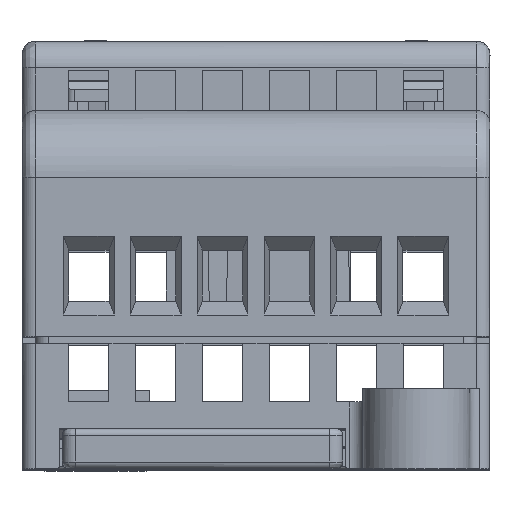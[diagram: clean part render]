
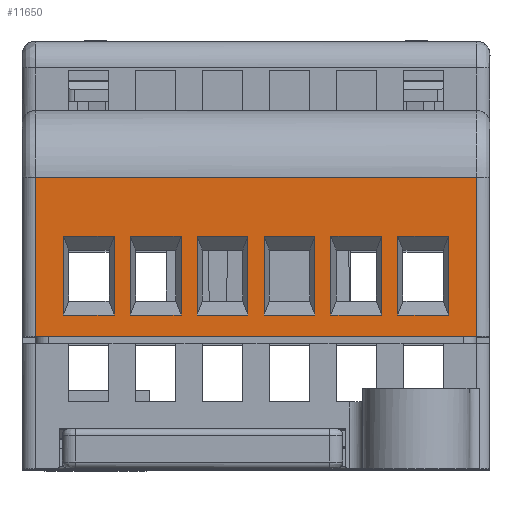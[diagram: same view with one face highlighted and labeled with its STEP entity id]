
A CAD part, top view. The second image highlights one B-rep face of the part: STEP entity #11650.
In plain terms, the highlighted planar face has unit normal (0, 0, 1).
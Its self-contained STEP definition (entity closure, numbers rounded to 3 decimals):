
#11650=ADVANCED_FACE('',(#12820,#12129,#12130,#12131,#12132,#12133,#12134),
#38972,.T.);
#12129=FACE_BOUND('',#13947,.T.);
#12130=FACE_BOUND('',#13948,.T.);
#12131=FACE_BOUND('',#13949,.T.);
#12132=FACE_BOUND('',#13950,.T.);
#12133=FACE_BOUND('',#13951,.T.);
#12134=FACE_BOUND('',#13952,.T.);
#12820=FACE_OUTER_BOUND('',#13946,.T.);
#13946=EDGE_LOOP('',(#18120,#18121,#18122,#18123));
#13947=EDGE_LOOP('',(#18124,#18125,#18126,#18127));
#13948=EDGE_LOOP('',(#18128,#18129,#18130,#18131));
#13949=EDGE_LOOP('',(#18132,#18133,#18134,#18135));
#13950=EDGE_LOOP('',(#18136,#18137,#18138,#18139));
#13951=EDGE_LOOP('',(#18140,#18141,#18142,#18143));
#13952=EDGE_LOOP('',(#18144,#18145,#18146,#18147));
#18120=ORIENTED_EDGE('',*,*,#24145,.T.);
#18121=ORIENTED_EDGE('',*,*,#24148,.T.);
#18122=ORIENTED_EDGE('',*,*,#24147,.T.);
#18123=ORIENTED_EDGE('',*,*,#24146,.T.);
#18124=ORIENTED_EDGE('',*,*,#24152,.T.);
#18125=ORIENTED_EDGE('',*,*,#24151,.T.);
#18126=ORIENTED_EDGE('',*,*,#24150,.T.);
#18127=ORIENTED_EDGE('',*,*,#24149,.T.);
#18128=ORIENTED_EDGE('',*,*,#24156,.T.);
#18129=ORIENTED_EDGE('',*,*,#24155,.T.);
#18130=ORIENTED_EDGE('',*,*,#24154,.T.);
#18131=ORIENTED_EDGE('',*,*,#24153,.T.);
#18132=ORIENTED_EDGE('',*,*,#24160,.T.);
#18133=ORIENTED_EDGE('',*,*,#24159,.T.);
#18134=ORIENTED_EDGE('',*,*,#24158,.T.);
#18135=ORIENTED_EDGE('',*,*,#24157,.T.);
#18136=ORIENTED_EDGE('',*,*,#24164,.T.);
#18137=ORIENTED_EDGE('',*,*,#24163,.T.);
#18138=ORIENTED_EDGE('',*,*,#24162,.T.);
#18139=ORIENTED_EDGE('',*,*,#24161,.T.);
#18140=ORIENTED_EDGE('',*,*,#24168,.T.);
#18141=ORIENTED_EDGE('',*,*,#24167,.T.);
#18142=ORIENTED_EDGE('',*,*,#24166,.T.);
#18143=ORIENTED_EDGE('',*,*,#24165,.T.);
#18144=ORIENTED_EDGE('',*,*,#24172,.T.);
#18145=ORIENTED_EDGE('',*,*,#24171,.T.);
#18146=ORIENTED_EDGE('',*,*,#24170,.T.);
#18147=ORIENTED_EDGE('',*,*,#24169,.T.);
#24145=EDGE_CURVE('',#36195,#36196,#30593,.T.);
#24146=EDGE_CURVE('',#36197,#36195,#30594,.T.);
#24147=EDGE_CURVE('',#36198,#36197,#30595,.T.);
#24148=EDGE_CURVE('',#36196,#36198,#30596,.T.);
#24149=EDGE_CURVE('',#36199,#36200,#30597,.T.);
#24150=EDGE_CURVE('',#36201,#36199,#30598,.T.);
#24151=EDGE_CURVE('',#36202,#36201,#30599,.T.);
#24152=EDGE_CURVE('',#36200,#36202,#30600,.T.);
#24153=EDGE_CURVE('',#36203,#36204,#30601,.T.);
#24154=EDGE_CURVE('',#36205,#36203,#30602,.T.);
#24155=EDGE_CURVE('',#36206,#36205,#30603,.T.);
#24156=EDGE_CURVE('',#36204,#36206,#30604,.T.);
#24157=EDGE_CURVE('',#36207,#36208,#30605,.T.);
#24158=EDGE_CURVE('',#36209,#36207,#30606,.T.);
#24159=EDGE_CURVE('',#36210,#36209,#30607,.T.);
#24160=EDGE_CURVE('',#36208,#36210,#30608,.T.);
#24161=EDGE_CURVE('',#36211,#36212,#30609,.T.);
#24162=EDGE_CURVE('',#36213,#36211,#30610,.T.);
#24163=EDGE_CURVE('',#36214,#36213,#30611,.T.);
#24164=EDGE_CURVE('',#36212,#36214,#30612,.T.);
#24165=EDGE_CURVE('',#36215,#36216,#30613,.T.);
#24166=EDGE_CURVE('',#36217,#36215,#30614,.T.);
#24167=EDGE_CURVE('',#36218,#36217,#30615,.T.);
#24168=EDGE_CURVE('',#36216,#36218,#30616,.T.);
#24169=EDGE_CURVE('',#36219,#36220,#30617,.T.);
#24170=EDGE_CURVE('',#36221,#36219,#30618,.T.);
#24171=EDGE_CURVE('',#36222,#36221,#30619,.T.);
#24172=EDGE_CURVE('',#36220,#36222,#30620,.T.);
#30593=B_SPLINE_CURVE_WITH_KNOTS('',1,(#56403,#56404),.UNSPECIFIED.,.F.,
 .F.,(2,2),(-11.9,0.),.UNSPECIFIED.);
#30594=B_SPLINE_CURVE_WITH_KNOTS('',1,(#56405,#56406),.UNSPECIFIED.,.F.,
 .F.,(2,2),(-33.,0.),.UNSPECIFIED.);
#30595=B_SPLINE_CURVE_WITH_KNOTS('',1,(#56407,#56408),.UNSPECIFIED.,.F.,
 .F.,(2,2),(-11.9,0.),.UNSPECIFIED.);
#30596=B_SPLINE_CURVE_WITH_KNOTS('',1,(#56409,#56410),.UNSPECIFIED.,.F.,
 .F.,(2,2),(-33.,0.),.UNSPECIFIED.);
#30597=B_SPLINE_CURVE_WITH_KNOTS('',1,(#56411,#56412),.UNSPECIFIED.,.F.,
 .F.,(2,2),(-5.9,0.),.UNSPECIFIED.);
#30598=B_SPLINE_CURVE_WITH_KNOTS('',1,(#56413,#56414),.UNSPECIFIED.,.F.,
 .F.,(2,2),(-3.8,0.),.UNSPECIFIED.);
#30599=B_SPLINE_CURVE_WITH_KNOTS('',1,(#56415,#56416),.UNSPECIFIED.,.F.,
 .F.,(2,2),(-5.9,0.),.UNSPECIFIED.);
#30600=B_SPLINE_CURVE_WITH_KNOTS('',1,(#56417,#56418),.UNSPECIFIED.,.F.,
 .F.,(2,2),(-3.8,0.),.UNSPECIFIED.);
#30601=B_SPLINE_CURVE_WITH_KNOTS('',1,(#56419,#56420),.UNSPECIFIED.,.F.,
 .F.,(2,2),(-5.9,0.),.UNSPECIFIED.);
#30602=B_SPLINE_CURVE_WITH_KNOTS('',1,(#56421,#56422),.UNSPECIFIED.,.F.,
 .F.,(2,2),(-3.8,0.),.UNSPECIFIED.);
#30603=B_SPLINE_CURVE_WITH_KNOTS('',1,(#56423,#56424),.UNSPECIFIED.,.F.,
 .F.,(2,2),(-5.9,0.),.UNSPECIFIED.);
#30604=B_SPLINE_CURVE_WITH_KNOTS('',1,(#56425,#56426),.UNSPECIFIED.,.F.,
 .F.,(2,2),(-3.8,0.),.UNSPECIFIED.);
#30605=B_SPLINE_CURVE_WITH_KNOTS('',1,(#56427,#56428),.UNSPECIFIED.,.F.,
 .F.,(2,2),(-5.9,0.),.UNSPECIFIED.);
#30606=B_SPLINE_CURVE_WITH_KNOTS('',1,(#56429,#56430),.UNSPECIFIED.,.F.,
 .F.,(2,2),(-3.8,0.),.UNSPECIFIED.);
#30607=B_SPLINE_CURVE_WITH_KNOTS('',1,(#56431,#56432),.UNSPECIFIED.,.F.,
 .F.,(2,2),(-5.9,0.),.UNSPECIFIED.);
#30608=B_SPLINE_CURVE_WITH_KNOTS('',1,(#56433,#56434),.UNSPECIFIED.,.F.,
 .F.,(2,2),(-3.8,0.),.UNSPECIFIED.);
#30609=B_SPLINE_CURVE_WITH_KNOTS('',1,(#56435,#56436),.UNSPECIFIED.,.F.,
 .F.,(2,2),(-5.9,0.),.UNSPECIFIED.);
#30610=B_SPLINE_CURVE_WITH_KNOTS('',1,(#56437,#56438),.UNSPECIFIED.,.F.,
 .F.,(2,2),(-3.8,0.),.UNSPECIFIED.);
#30611=B_SPLINE_CURVE_WITH_KNOTS('',1,(#56439,#56440),.UNSPECIFIED.,.F.,
 .F.,(2,2),(-5.9,0.),.UNSPECIFIED.);
#30612=B_SPLINE_CURVE_WITH_KNOTS('',1,(#56441,#56442),.UNSPECIFIED.,.F.,
 .F.,(2,2),(-3.8,0.),.UNSPECIFIED.);
#30613=B_SPLINE_CURVE_WITH_KNOTS('',1,(#56443,#56444),.UNSPECIFIED.,.F.,
 .F.,(2,2),(-5.9,0.),.UNSPECIFIED.);
#30614=B_SPLINE_CURVE_WITH_KNOTS('',1,(#56445,#56446),.UNSPECIFIED.,.F.,
 .F.,(2,2),(-3.8,0.),.UNSPECIFIED.);
#30615=B_SPLINE_CURVE_WITH_KNOTS('',1,(#56447,#56448),.UNSPECIFIED.,.F.,
 .F.,(2,2),(-5.9,0.),.UNSPECIFIED.);
#30616=B_SPLINE_CURVE_WITH_KNOTS('',1,(#56449,#56450),.UNSPECIFIED.,.F.,
 .F.,(2,2),(-3.8,0.),.UNSPECIFIED.);
#30617=B_SPLINE_CURVE_WITH_KNOTS('',1,(#56451,#56452),.UNSPECIFIED.,.F.,
 .F.,(2,2),(-5.9,0.),.UNSPECIFIED.);
#30618=B_SPLINE_CURVE_WITH_KNOTS('',1,(#56453,#56454),.UNSPECIFIED.,.F.,
 .F.,(2,2),(-3.8,0.),.UNSPECIFIED.);
#30619=B_SPLINE_CURVE_WITH_KNOTS('',1,(#56455,#56456),.UNSPECIFIED.,.F.,
 .F.,(2,2),(-5.9,0.),.UNSPECIFIED.);
#30620=B_SPLINE_CURVE_WITH_KNOTS('',1,(#56457,#56458),.UNSPECIFIED.,.F.,
 .F.,(2,2),(-3.8,0.),.UNSPECIFIED.);
#36195=VERTEX_POINT('',#56375);
#36196=VERTEX_POINT('',#56376);
#36197=VERTEX_POINT('',#56377);
#36198=VERTEX_POINT('',#56378);
#36199=VERTEX_POINT('',#56379);
#36200=VERTEX_POINT('',#56380);
#36201=VERTEX_POINT('',#56381);
#36202=VERTEX_POINT('',#56382);
#36203=VERTEX_POINT('',#56383);
#36204=VERTEX_POINT('',#56384);
#36205=VERTEX_POINT('',#56385);
#36206=VERTEX_POINT('',#56386);
#36207=VERTEX_POINT('',#56387);
#36208=VERTEX_POINT('',#56388);
#36209=VERTEX_POINT('',#56389);
#36210=VERTEX_POINT('',#56390);
#36211=VERTEX_POINT('',#56391);
#36212=VERTEX_POINT('',#56392);
#36213=VERTEX_POINT('',#56393);
#36214=VERTEX_POINT('',#56394);
#36215=VERTEX_POINT('',#56395);
#36216=VERTEX_POINT('',#56396);
#36217=VERTEX_POINT('',#56397);
#36218=VERTEX_POINT('',#56398);
#36219=VERTEX_POINT('',#56399);
#36220=VERTEX_POINT('',#56400);
#36221=VERTEX_POINT('',#56401);
#36222=VERTEX_POINT('',#56402);
#38972=PLANE('',#40284);
#40284=AXIS2_PLACEMENT_3D('',#56374,#41285,$);
#41285=DIRECTION('',(0.,0.,1.));
#56374=CARTESIAN_POINT('',(-19.921,36.589,45.));
#56375=CARTESIAN_POINT('',(-16.5,49.8,45.));
#56376=CARTESIAN_POINT('',(-16.5,37.9,45.));
#56377=CARTESIAN_POINT('',(16.5,49.8,45.));
#56378=CARTESIAN_POINT('',(16.5,37.9,45.));
#56379=CARTESIAN_POINT('',(-14.4,39.5,45.));
#56380=CARTESIAN_POINT('',(-14.4,45.4,45.));
#56381=CARTESIAN_POINT('',(-10.6,39.5,45.));
#56382=CARTESIAN_POINT('',(-10.6,45.4,45.));
#56383=CARTESIAN_POINT('',(-9.4,39.5,45.));
#56384=CARTESIAN_POINT('',(-9.4,45.4,45.));
#56385=CARTESIAN_POINT('',(-5.6,39.5,45.));
#56386=CARTESIAN_POINT('',(-5.6,45.4,45.));
#56387=CARTESIAN_POINT('',(-4.4,39.5,45.));
#56388=CARTESIAN_POINT('',(-4.4,45.4,45.));
#56389=CARTESIAN_POINT('',(-0.6,39.5,45.));
#56390=CARTESIAN_POINT('',(-0.6,45.4,45.));
#56391=CARTESIAN_POINT('',(0.6,39.5,45.));
#56392=CARTESIAN_POINT('',(0.6,45.4,45.));
#56393=CARTESIAN_POINT('',(4.4,39.5,45.));
#56394=CARTESIAN_POINT('',(4.4,45.4,45.));
#56395=CARTESIAN_POINT('',(5.6,39.5,45.));
#56396=CARTESIAN_POINT('',(5.6,45.4,45.));
#56397=CARTESIAN_POINT('',(9.4,39.5,45.));
#56398=CARTESIAN_POINT('',(9.4,45.4,45.));
#56399=CARTESIAN_POINT('',(10.6,39.5,45.));
#56400=CARTESIAN_POINT('',(10.6,45.4,45.));
#56401=CARTESIAN_POINT('',(14.4,39.5,45.));
#56402=CARTESIAN_POINT('',(14.4,45.4,45.));
#56403=CARTESIAN_POINT('',(-16.5,49.8,45.));
#56404=CARTESIAN_POINT('',(-16.5,37.9,45.));
#56405=CARTESIAN_POINT('',(16.5,49.8,45.));
#56406=CARTESIAN_POINT('',(-16.5,49.8,45.));
#56407=CARTESIAN_POINT('',(16.5,37.9,45.));
#56408=CARTESIAN_POINT('',(16.5,49.8,45.));
#56409=CARTESIAN_POINT('',(-16.5,37.9,45.));
#56410=CARTESIAN_POINT('',(16.5,37.9,45.));
#56411=CARTESIAN_POINT('',(-14.4,39.5,45.));
#56412=CARTESIAN_POINT('',(-14.4,45.4,45.));
#56413=CARTESIAN_POINT('',(-10.6,39.5,45.));
#56414=CARTESIAN_POINT('',(-14.4,39.5,45.));
#56415=CARTESIAN_POINT('',(-10.6,45.4,45.));
#56416=CARTESIAN_POINT('',(-10.6,39.5,45.));
#56417=CARTESIAN_POINT('',(-14.4,45.4,45.));
#56418=CARTESIAN_POINT('',(-10.6,45.4,45.));
#56419=CARTESIAN_POINT('',(-9.4,39.5,45.));
#56420=CARTESIAN_POINT('',(-9.4,45.4,45.));
#56421=CARTESIAN_POINT('',(-5.6,39.5,45.));
#56422=CARTESIAN_POINT('',(-9.4,39.5,45.));
#56423=CARTESIAN_POINT('',(-5.6,45.4,45.));
#56424=CARTESIAN_POINT('',(-5.6,39.5,45.));
#56425=CARTESIAN_POINT('',(-9.4,45.4,45.));
#56426=CARTESIAN_POINT('',(-5.6,45.4,45.));
#56427=CARTESIAN_POINT('',(-4.4,39.5,45.));
#56428=CARTESIAN_POINT('',(-4.4,45.4,45.));
#56429=CARTESIAN_POINT('',(-0.6,39.5,45.));
#56430=CARTESIAN_POINT('',(-4.4,39.5,45.));
#56431=CARTESIAN_POINT('',(-0.6,45.4,45.));
#56432=CARTESIAN_POINT('',(-0.6,39.5,45.));
#56433=CARTESIAN_POINT('',(-4.4,45.4,45.));
#56434=CARTESIAN_POINT('',(-0.6,45.4,45.));
#56435=CARTESIAN_POINT('',(0.6,39.5,45.));
#56436=CARTESIAN_POINT('',(0.6,45.4,45.));
#56437=CARTESIAN_POINT('',(4.4,39.5,45.));
#56438=CARTESIAN_POINT('',(0.6,39.5,45.));
#56439=CARTESIAN_POINT('',(4.4,45.4,45.));
#56440=CARTESIAN_POINT('',(4.4,39.5,45.));
#56441=CARTESIAN_POINT('',(0.6,45.4,45.));
#56442=CARTESIAN_POINT('',(4.4,45.4,45.));
#56443=CARTESIAN_POINT('',(5.6,39.5,45.));
#56444=CARTESIAN_POINT('',(5.6,45.4,45.));
#56445=CARTESIAN_POINT('',(9.4,39.5,45.));
#56446=CARTESIAN_POINT('',(5.6,39.5,45.));
#56447=CARTESIAN_POINT('',(9.4,45.4,45.));
#56448=CARTESIAN_POINT('',(9.4,39.5,45.));
#56449=CARTESIAN_POINT('',(5.6,45.4,45.));
#56450=CARTESIAN_POINT('',(9.4,45.4,45.));
#56451=CARTESIAN_POINT('',(10.6,39.5,45.));
#56452=CARTESIAN_POINT('',(10.6,45.4,45.));
#56453=CARTESIAN_POINT('',(14.4,39.5,45.));
#56454=CARTESIAN_POINT('',(10.6,39.5,45.));
#56455=CARTESIAN_POINT('',(14.4,45.4,45.));
#56456=CARTESIAN_POINT('',(14.4,39.5,45.));
#56457=CARTESIAN_POINT('',(10.6,45.4,45.));
#56458=CARTESIAN_POINT('',(14.4,45.4,45.));
